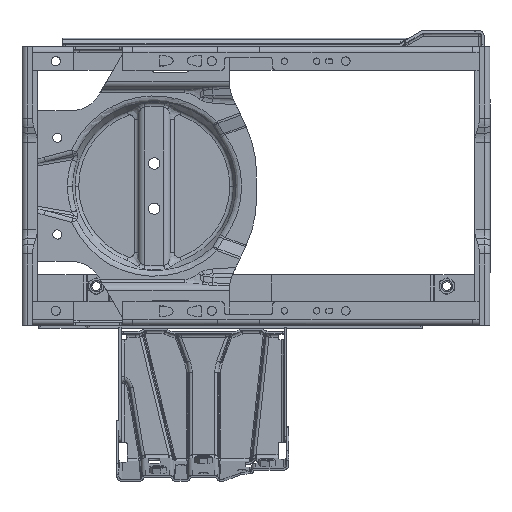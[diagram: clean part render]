
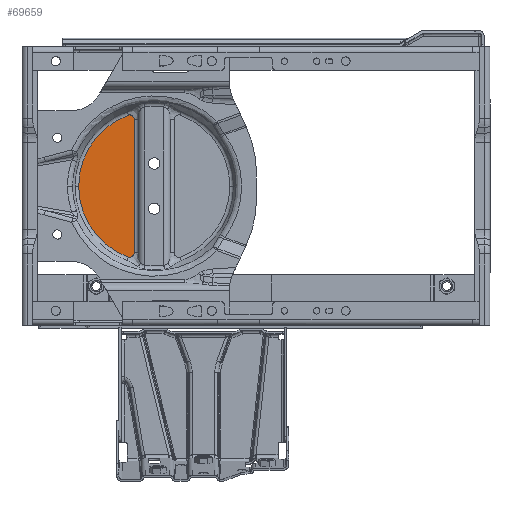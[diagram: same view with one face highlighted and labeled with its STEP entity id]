
A CAD part, top view. The second image highlights one B-rep face of the part: STEP entity #69659.
In plain terms, the highlighted planar face has unit normal (0, 0, 1).
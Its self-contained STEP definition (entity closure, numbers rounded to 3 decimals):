
#69649=VECTOR('Line Direction',#69648,1.) ;
#41952=DIRECTION('Axis2P3D Direction',(0.,0.,1.)) ;
#69352=DIRECTION('Axis2P3D Direction',(0.,0.,-1.)) ;
#69643=DIRECTION('Axis2P3D Direction',(0.,0.,1.)) ;
#69644=DIRECTION('Axis2P3D XDirection',(1.,0.,0.)) ;
#69648=DIRECTION('Vector Direction',(0.,1.,0.)) ;
#41864=CARTESIAN_POINT('Control Point',(776.627,-648.53,249.198)) ;
#41865=CARTESIAN_POINT('Control Point',(776.899,-648.431,249.198)) ;
#41866=CARTESIAN_POINT('Control Point',(777.184,-648.372,249.198)) ;
#41867=CARTESIAN_POINT('Control Point',(777.479,-648.355,249.198)) ;
#41868=CARTESIAN_POINT('Control Point',(778.226,-648.401,249.198)) ;
#41869=CARTESIAN_POINT('Control Point',(778.963,-648.641,249.198)) ;
#41870=CARTESIAN_POINT('Control Point',(779.394,-648.838,249.198)) ;
#41871=CARTESIAN_POINT('Control Point',(780.215,-649.312,249.198)) ;
#41872=CARTESIAN_POINT('Control Point',(780.936,-649.929,249.197)) ;
#41873=CARTESIAN_POINT('Control Point',(781.267,-650.272,249.198)) ;
#41874=CARTESIAN_POINT('Control Point',(781.735,-650.883,249.197)) ;
#41875=CARTESIAN_POINT('Control Point',(782.026,-651.57,249.198)) ;
#41876=CARTESIAN_POINT('Control Point',(782.107,-651.848,249.198)) ;
#41877=CARTESIAN_POINT('Control Point',(782.147,-652.131,249.198)) ;
#41878=CARTESIAN_POINT('Control Point',(782.147,-652.415,249.198)) ;
#41879=CARTESIAN_POINT('Vertex',(776.627,-648.53,249.198)) ;
#41881=CARTESIAN_POINT('Vertex',(782.147,-652.415,249.198)) ;
#41948=CARTESIAN_POINT('Vertex',(730.345,-714.559,249.197)) ;
#41951=CARTESIAN_POINT('Axis2P3D Location',(800.587,-714.559,249.198)) ;
#69279=CARTESIAN_POINT('Vertex',(776.627,-780.588,249.198)) ;
#69321=CARTESIAN_POINT('Vertex',(782.147,-776.703,249.198)) ;
#69325=CARTESIAN_POINT('Control Point',(776.627,-780.588,249.198)) ;
#69326=CARTESIAN_POINT('Control Point',(776.899,-780.686,249.198)) ;
#69327=CARTESIAN_POINT('Control Point',(777.184,-780.745,249.198)) ;
#69328=CARTESIAN_POINT('Control Point',(777.479,-780.763,249.198)) ;
#69329=CARTESIAN_POINT('Control Point',(778.226,-780.716,249.198)) ;
#69330=CARTESIAN_POINT('Control Point',(778.963,-780.476,249.198)) ;
#69331=CARTESIAN_POINT('Control Point',(779.394,-780.279,249.198)) ;
#69332=CARTESIAN_POINT('Control Point',(780.215,-779.805,249.198)) ;
#69333=CARTESIAN_POINT('Control Point',(780.936,-779.189,249.197)) ;
#69334=CARTESIAN_POINT('Control Point',(781.267,-778.846,249.198)) ;
#69335=CARTESIAN_POINT('Control Point',(781.735,-778.234,249.197)) ;
#69336=CARTESIAN_POINT('Control Point',(782.026,-777.548,249.198)) ;
#69337=CARTESIAN_POINT('Control Point',(782.107,-777.27,249.198)) ;
#69338=CARTESIAN_POINT('Control Point',(782.147,-776.987,249.198)) ;
#69339=CARTESIAN_POINT('Control Point',(782.147,-776.703,249.198)) ;
#69351=CARTESIAN_POINT('Axis2P3D Location',(800.587,-714.559,249.198)) ;
#69642=CARTESIAN_POINT('Axis2P3D Location',(665.587,-714.559,249.197)) ;
#69647=CARTESIAN_POINT('Line Origine',(782.147,-714.559,249.198)) ;
#41953=AXIS2_PLACEMENT_3D('Circle Axis2P3D',#41951,#41952,$) ;
#69353=AXIS2_PLACEMENT_3D('Circle Axis2P3D',#69351,#69352,$) ;
#69645=AXIS2_PLACEMENT_3D('Plane Axis2P3D',#69642,#69643,#69644) ;
#41883=EDGE_CURVE('',#41880,#41882,#41863,.T.) ;
#41955=EDGE_CURVE('',#41880,#41949,#41954,.T.) ;
#69340=EDGE_CURVE('',#69280,#69322,#69324,.T.) ;
#69355=EDGE_CURVE('',#69280,#41949,#69354,.T.) ;
#69651=EDGE_CURVE('',#69322,#41882,#69650,.T.) ;
#69646=PLANE('Plane',#69645) ;
#69653=ORIENTED_EDGE('',*,*,#41883,.F.) ;
#69654=ORIENTED_EDGE('',*,*,#41955,.T.) ;
#69655=ORIENTED_EDGE('',*,*,#69355,.F.) ;
#69656=ORIENTED_EDGE('',*,*,#69340,.T.) ;
#69657=ORIENTED_EDGE('',*,*,#69651,.T.) ;
#69650=LINE('Line',#69647,#69649) ;
#69659=ADVANCED_FACE('111.1\\X5000S-3.1\\Product78.1\\\X2\6C1456CA4E0B652F67B6\X0\.1\\\X2\6C1456CA4E0B5B8988C5652F67B6\X0\',(#69658),#69646,.T.) ;
#41954=CIRCLE('generated circle',#41953,70.242) ;
#69354=CIRCLE('generated circle',#69353,70.242) ;
#41880=VERTEX_POINT('',#41879) ;
#41882=VERTEX_POINT('',#41881) ;
#41949=VERTEX_POINT('',#41948) ;
#69280=VERTEX_POINT('',#69279) ;
#69322=VERTEX_POINT('',#69321) ;
#41863=B_SPLINE_CURVE_WITH_KNOTS('',5,(#41864,#41865,#41866,#41867,#41868,#41869,#41870,#41871,#41872,#41873,#41874,#41875,#41876,#41877,#41878),.UNSPECIFIED.,.F.,.U.,(6,3,3,3,6),(0.,2.507,6.342,10.195,12.655),.UNSPECIFIED.) ;
#69324=B_SPLINE_CURVE_WITH_KNOTS('',5,(#69325,#69326,#69327,#69328,#69329,#69330,#69331,#69332,#69333,#69334,#69335,#69336,#69337,#69338,#69339),.UNSPECIFIED.,.F.,.U.,(6,3,3,3,6),(0.,2.507,6.342,10.195,12.655),.UNSPECIFIED.) ;
#69652=EDGE_LOOP('',(#69653,#69654,#69655,#69656,#69657)) ;
#69658=FACE_OUTER_BOUND('',#69652,.T.) ;
